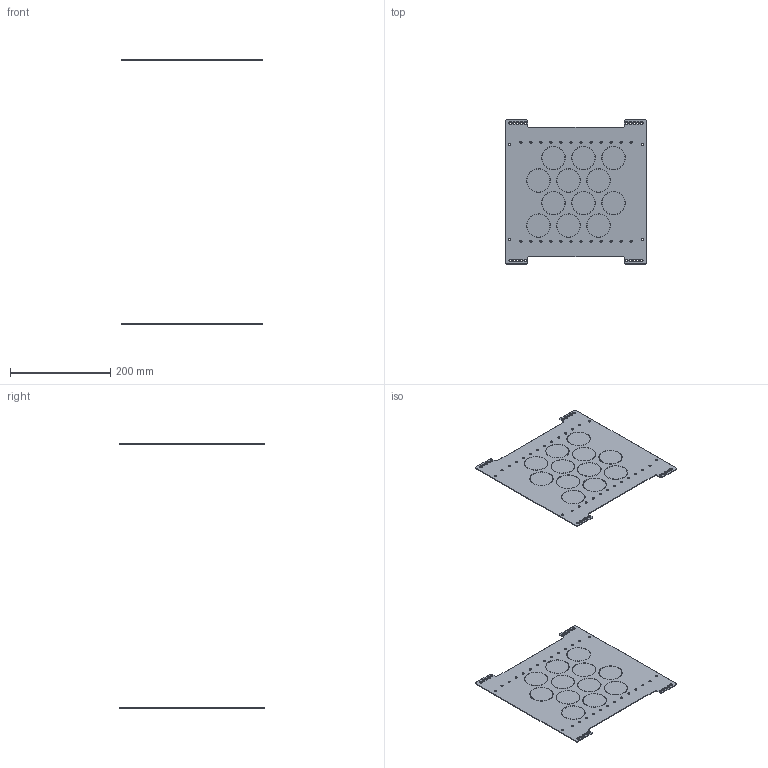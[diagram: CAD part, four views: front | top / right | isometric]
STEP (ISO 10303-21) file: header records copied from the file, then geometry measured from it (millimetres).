
FILE_DESCRIPTION(('CAx-IF Rec.Pracs.---Model Styling and Organization---1.2---2011-12-15','CAx-IF Rec.Pracs.---Geometric and Assembly Validation Properties---4.1---2014-06-16','CAx-IF Rec.Pracs.---PMI Polyline Presentation---2.0---2013-05-24'),'2;1');
FILE_NAME('R5SVP300164P.stp','2021-05-06T02:36:37+03:00',(''),(''),'STEP Interface 4.4 by CT CoreTechnologie','3D_Evolution4.4 by CT CoreTechnologie','');
FILE_SCHEMA(('AUTOMOTIVE_DESIGN { 1 0 10303 214 1 1 1 1 }'));
Length unit declared in the file: millimetre
Products named in the file (2): R5SVP300164P; RB.1045.00.00.0_-04
Assembly tree (2 placements, depth 2):
  R5SVP300164P
    RB.1045.00.00.0_-04  x2
Bounding box: 283 x 288 x 529 mm (x, y, z)
Surface area: 312056.6 mm2 (no closed solid volume)
Topology: 0 solids, 2 shells, 580 faces, 1728 edges, 1152 vertices
Faces by surface type: cylinder 384, plane 196
Entity records: 10341 total; most frequent: DIRECTION 1834, CARTESIAN_POINT 1733, ORIENTED_EDGE 1728, EDGE_CURVE 864, AXIS2_PLACEMENT_3D 677, VERTEX_POINT 576, VECTOR 480, LINE 480
